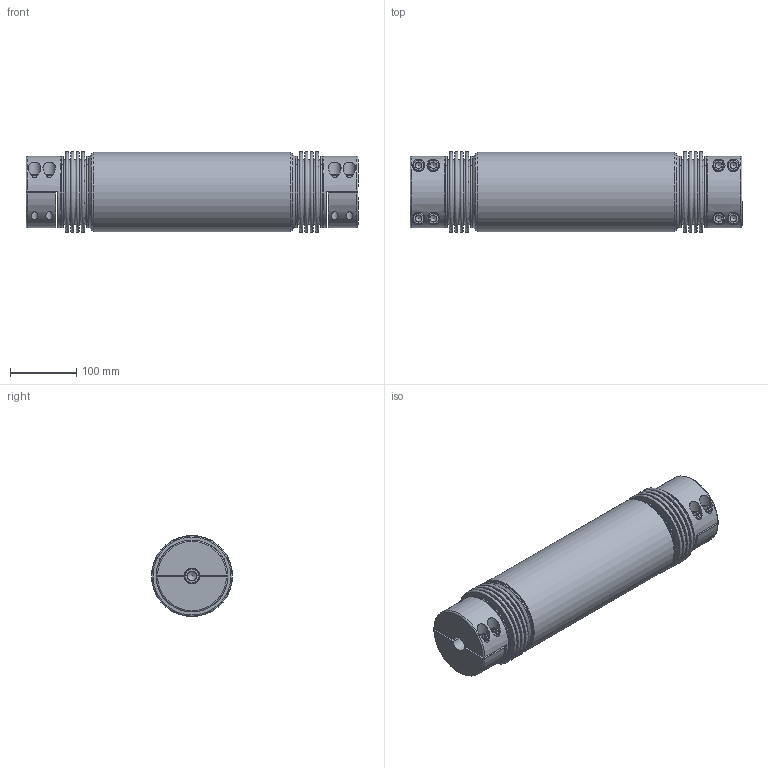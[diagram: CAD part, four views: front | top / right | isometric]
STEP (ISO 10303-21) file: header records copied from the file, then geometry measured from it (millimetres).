
FILE_DESCRIPTION( ( 'Unknown' ), '1' );
FILE_NAME( 'F:/JAKOB-STEP+IGES-Dateien/STEP-Dateien/WDS/WDS 800 - L=0,5m.stp', 'Unknown', ( 'Unknown' ), ( 'Unknown' ), 'PSStep 10.1', 'Unknown', ' ' );
FILE_SCHEMA( ( 'AUTOMOTIVE_DESIGN { 1 0 10303 214 1 1 1 1 }' ) );
Length unit declared in the file: millimetre
Products named in the file (1): WDS  800
Bounding box: 500 x 122 x 122 mm (x, y, z)
Volume: 2418169.3 mm3; surface area: 569975.8 mm2
Topology: 1 solids, 4 shells, 394 faces, 845 edges, 541 vertices
Faces by surface type: plane 224, cylinder 80, torus 58, cone 32
Full cylindrical faces by diameter (mm): 10.2 x8, 12 x8, 12.5 x8, 16 x2, 17 x2, 17.5 x2, 18 x8, 19 x8, 24 x4, 45 x2, 90 x2, 106.4 x4, 108 x6, 110 x1, 116 x2, 120 x1
Entity records: 13948 total; most frequent: CARTESIAN_POINT 3011, DIRECTION 1696, ORIENTED_EDGE 1244, AXIS2_PLACEMENT_3D 703, EDGE_LOOP 646, EDGE_CURVE 622, FACE_OUTER_BOUND 516, VERTEX_POINT 482
